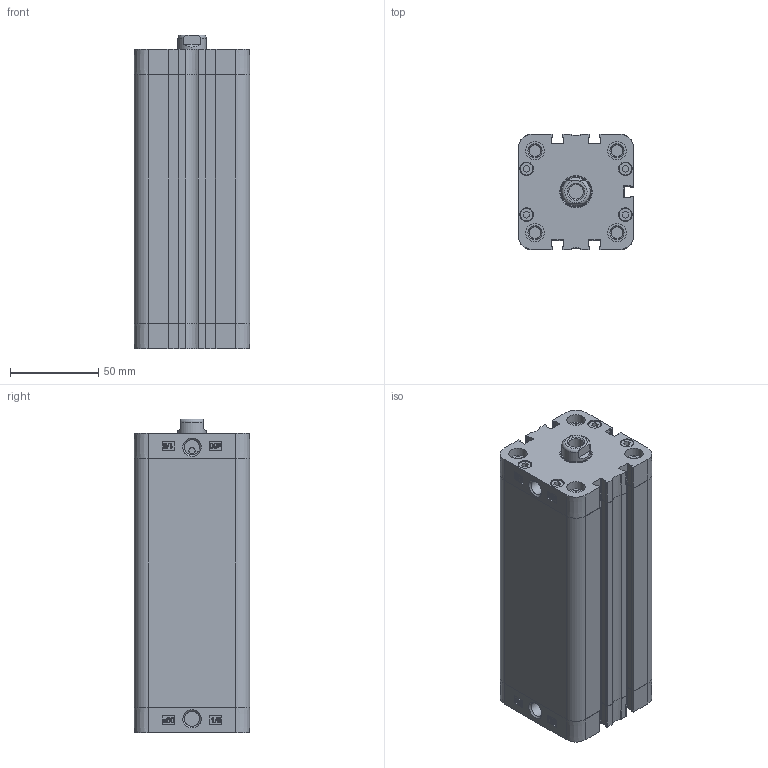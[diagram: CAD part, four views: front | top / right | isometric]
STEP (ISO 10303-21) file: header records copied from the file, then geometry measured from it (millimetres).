
FILE_DESCRIPTION(/* description */ ('Unknown'),/* implementation_level */ '2;1');
FILE_NAME(/* name */ 'ZIN 50_125',/* time_stamp */ '2024-11-12T08:15:23+01:00',/* author */ ('Unknown'),/* organization */ ('HAFNER Pneumatika Kft.'),/* preprocessor_version */ 'ST-DEVELOPER v18.102',/* originating_system */ 'Solid Edge',/* authorisation */ 'Unknown');
FILE_SCHEMA (('AUTOMOTIVE_DESIGN {1 0 10303 214 3 1 1}'));
Length unit declared in the file: millimetre
Products named in the file (5): ZIN 50_125; Profilrohr; Kolbenstange; Kit_2; Kit_1
Assembly tree (4 placements, depth 2):
  ZIN 50_125
    Profilrohr
    Kolbenstange
    Kit_2
    Kit_1
Bounding box: 65.5 x 65.5 x 178 mm (x, y, z)
Volume: 462059.1 mm3; surface area: 115834.4 mm2
Topology: 4 solids, 12 shells, 731 faces, 1898 edges, 1250 vertices
Faces by surface type: plane 336, cylinder 212, bspline 108, torus 43, cone 32
Full cylindrical faces by diameter (mm): 3.5 x1, 5.2 x8, 6.647 x8, 7.5 x8, 7.7 x8, 8.376 x2, 8.566 x2, 10.5 x8, 12 x1, 16 x1, 16.54 x1, 17.7 x1, 18 x1, 20.5 x1, 50 x2
Entity records: 27380 total; most frequent: CARTESIAN_POINT 5777, ORIENTED_EDGE 3548, DIRECTION 3270, EDGE_CURVE 1774, VERTEX_POINT 1220, AXIS2_PLACEMENT_3D 1127, LINE 1016, VECTOR 1016
